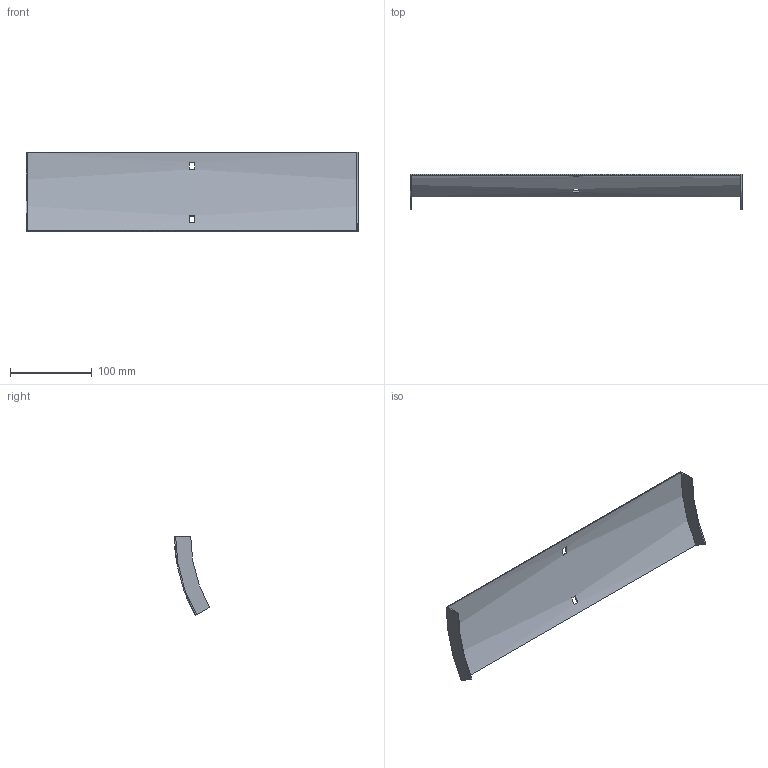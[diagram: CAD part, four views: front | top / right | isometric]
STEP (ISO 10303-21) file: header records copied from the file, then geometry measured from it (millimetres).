
FILE_DESCRIPTION (( 'STEP AP214' ), '1' );
FILE_NAME ('35N1I400.step', '2025-02-21T09:13:37', ( '' ), ( '' ), 'SwSTEP 2.0', 'SolidWorks 2023', '' );
FILE_SCHEMA (( 'AUTOMOTIVE_DESIGN' ));
Length unit declared in the file: millimetre
Products named in the file (1): 35N1I400
Bounding box: 407 x 43.31 x 97 mm (x, y, z)
Volume: 66922.8 mm3; surface area: 90930.2 mm2
Topology: 1 solids, 1 shells, 18 faces, 48 edges, 32 vertices
Faces by surface type: plane 14, cylinder 4
Entity records: 599 total; most frequent: DIRECTION 102, CARTESIAN_POINT 99, ORIENTED_EDGE 96, EDGE_CURVE 48, AXIS2_PLACEMENT_3D 35, VECTOR 32, VERTEX_POINT 32, LINE 32
